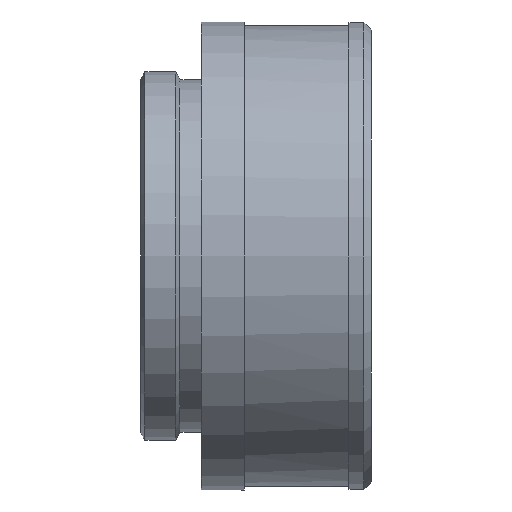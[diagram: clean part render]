
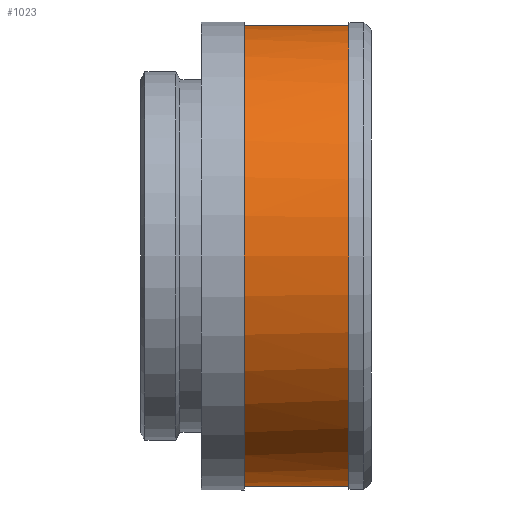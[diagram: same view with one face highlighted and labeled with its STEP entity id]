
A CAD part, left-side view. The second image highlights one B-rep face of the part: STEP entity #1023.
In plain terms, the highlighted cylindrical face has radius 15.621 mm (diameter 31.242 mm), a partial arc.
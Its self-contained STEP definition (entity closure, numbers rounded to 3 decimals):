
#10 = CARTESIAN_POINT ( 'NONE',  ( -0.762, -3.464, 15.602 ) ) ;
#41 = CARTESIAN_POINT ( 'NONE',  ( 0., 3.648, -15.621 ) ) ;
#54 = CARTESIAN_POINT ( 'NONE',  ( -0.762, -3.464, -15.602 ) ) ;
#58 = CARTESIAN_POINT ( 'NONE',  ( 0., -3.464, 15.621 ) ) ;
#182 = DIRECTION ( 'NONE',  ( 0., 0., -1. ) ) ;
#183 = CARTESIAN_POINT ( 'NONE',  ( 0., -3.464, 0. ) ) ;
#187 = DIRECTION ( 'NONE',  ( 0., 0., -1. ) ) ;
#196 = DIRECTION ( 'NONE',  ( 0., 1., 0. ) ) ;
#197 = CARTESIAN_POINT ( 'NONE',  ( 0., -3.464, 0. ) ) ;
#199 = DIRECTION ( 'NONE',  ( 0., 0., 1. ) ) ;
#200 = DIRECTION ( 'NONE',  ( 0., 1., 0. ) ) ;
#202 = DIRECTION ( 'NONE',  ( 0., 1., 0. ) ) ;
#209 = CARTESIAN_POINT ( 'NONE',  ( 0., 3.648, 0. ) ) ;
#432 = AXIS2_PLACEMENT_3D ( 'NONE', #183, #200, #182 ) ;
#434 = AXIS2_PLACEMENT_3D ( 'NONE', #197, #196, #187 ) ;
#435 = CIRCLE ( 'NONE', #432, 15.621 ) ;
#436 = AXIS2_PLACEMENT_3D ( 'NONE', #209, #202, #199 ) ;
#437 = CIRCLE ( 'NONE', #434, 15.621 ) ;
#439 = CIRCLE ( 'NONE', #436, 15.621 ) ;
#468 = AXIS2_PLACEMENT_3D ( 'NONE', #722, #724, #721 ) ;
#469 = CIRCLE ( 'NONE', #468, 15.621 ) ;
#540 = AXIS2_PLACEMENT_3D ( 'NONE', #1212, #1215, #1347 ) ;
#545 = VECTOR ( 'NONE', #633, 1000. ) ;
#546 = VECTOR ( 'NONE', #638, 1000. ) ;
#633 = DIRECTION ( 'NONE',  ( 0., 1., 0. ) ) ;
#637 = LINE ( 'NONE', #643, #545 ) ;
#638 = DIRECTION ( 'NONE',  ( 0., 1., 0. ) ) ;
#642 = LINE ( 'NONE', #645, #546 ) ;
#643 = CARTESIAN_POINT ( 'NONE',  ( 0., 0., 15.621 ) ) ;
#645 = CARTESIAN_POINT ( 'NONE',  ( 0., 0., -15.621 ) ) ;
#721 = DIRECTION ( 'NONE',  ( 0., 0., 1. ) ) ;
#722 = CARTESIAN_POINT ( 'NONE',  ( 0., -3.464, 0. ) ) ;
#724 = DIRECTION ( 'NONE',  ( 0., 1., 0. ) ) ;
#983 = ORIENTED_EDGE ( 'NONE', *, *, #1035, .T. ) ;
#986 = ORIENTED_EDGE ( 'NONE', *, *, #1092, .F. ) ;
#998 = ORIENTED_EDGE ( 'NONE', *, *, #1033, .F. ) ;
#1000 = ORIENTED_EDGE ( 'NONE', *, *, #1093, .T. ) ;
#1002 = ORIENTED_EDGE ( 'NONE', *, *, #1070, .T. ) ;
#1003 = ORIENTED_EDGE ( 'NONE', *, *, #1094, .T. ) ;
#1023 = ADVANCED_FACE ( 'NONE', ( #1213 ), #1214, .T. ) ;
#1033 = EDGE_CURVE ( 'NONE', #1353, #1301, #642, .T. ) ;
#1035 = EDGE_CURVE ( 'NONE', #1290, #1339, #637, .T. ) ;
#1070 = EDGE_CURVE ( 'NONE', #1288, #1327, #469, .T. ) ;
#1092 = EDGE_CURVE ( 'NONE', #1301, #1339, #439, .T. ) ;
#1093 = EDGE_CURVE ( 'NONE', #1353, #1288, #437, .T. ) ;
#1094 = EDGE_CURVE ( 'NONE', #1327, #1290, #435, .T. ) ;
#1171 = CARTESIAN_POINT ( 'NONE',  ( 0., 3.648, 15.621 ) ) ;
#1199 = CARTESIAN_POINT ( 'NONE',  ( 0., -3.464, -15.621 ) ) ;
#1212 = CARTESIAN_POINT ( 'NONE',  ( 0., 0., 0. ) ) ;
#1213 = FACE_OUTER_BOUND ( 'NONE', #1269, .T. ) ;
#1214 = CYLINDRICAL_SURFACE ( 'NONE', #540, 15.621 ) ;
#1215 = DIRECTION ( 'NONE',  ( 0., 1., 0. ) ) ;
#1269 = EDGE_LOOP ( 'NONE', ( #998, #1000, #1002, #1003, #983, #986 ) ) ;
#1288 = VERTEX_POINT ( 'NONE', #54 ) ;
#1290 = VERTEX_POINT ( 'NONE', #58 ) ;
#1301 = VERTEX_POINT ( 'NONE', #41 ) ;
#1327 = VERTEX_POINT ( 'NONE', #10 ) ;
#1339 = VERTEX_POINT ( 'NONE', #1171 ) ;
#1347 = DIRECTION ( 'NONE',  ( 0., 0., 1. ) ) ;
#1353 = VERTEX_POINT ( 'NONE', #1199 ) ;
